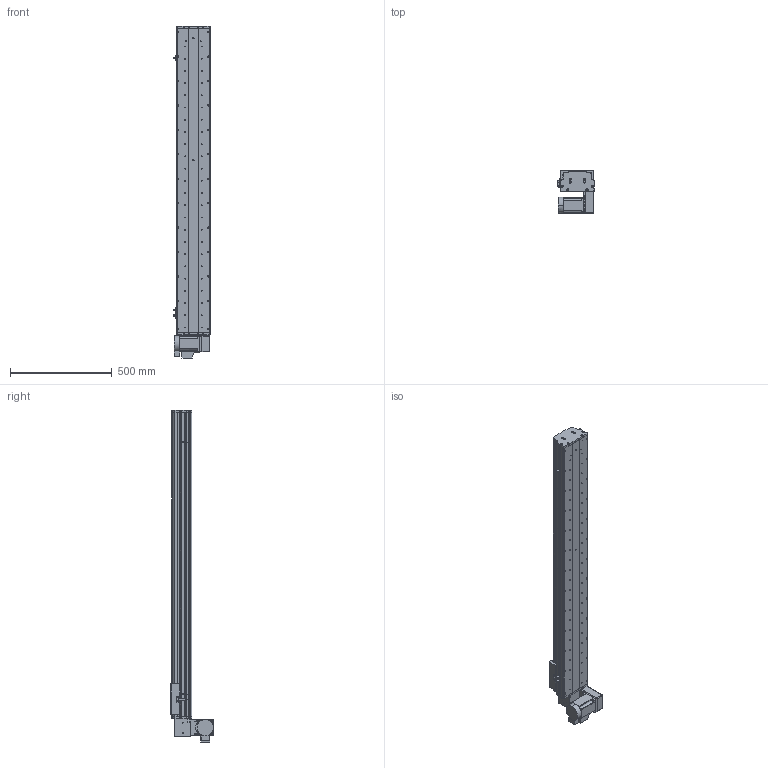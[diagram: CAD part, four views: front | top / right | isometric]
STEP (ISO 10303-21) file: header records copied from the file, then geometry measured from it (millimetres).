
FILE_DESCRIPTION (( 'STEP AP214' ), '1' );
FILE_NAME ('KSD165B-S1250-MRD-CM.STEP', '2017-10-17T00:42:26', ( '微软用户' ), ( '微软中国' ), 'SwSTEP 2.0', 'SolidWorks 2014', '' );
FILE_SCHEMA (( 'AUTOMOTIVE_DESIGN' ));
Length unit declared in the file: millimetre
Products named in the file (17): 130宽模组马达安装板连板上下折丝杆同步带; 130宽模组保护罩上下左右折-同步带; HTPA26S5M250-A-H8 750W萇儂蚚; HTPA26S5M250-A-H8 400W萇儂蚚 ; KSD165模组-同步带防尘盖1-1250行程; KSD165模组同步带底板-1250行程; 拸秶雄ん750W侜督萇儂; 165宽马达安装板同步带右; U倰嫖萇假蚾璃; U倰嫖萇EEㄜSX672; 覜茼え68遵圉猾敕; KSD165模组-同步带-防撞垫2; KSD165模组同步带-防撞垫1; KSD165耀郪-ヶ傷啣1-肮祭湍; KSD165模组-后端板1-同步带; KSD165模组-同步带滑动座-最新版; KSD165B-S1250-MRD-CM
Assembly tree (20 placements, depth 2):
  KSD165B-S1250-MRD-CM
    KSD165模组-同步带滑动座-最新版
    KSD165模组-后端板1-同步带
    KSD165耀郪-ヶ傷啣1-肮祭湍
    KSD165模组同步带-防撞垫1
    KSD165模组-同步带-防撞垫2
    覜茼え68遵圉猾敕
    U倰嫖萇EEㄜSX672  x3
    U倰嫖萇假蚾璃  x3
    165宽马达安装板同步带右
    拸秶雄ん750W侜督萇儂
    KSD165模组同步带底板-1250行程
    KSD165模组-同步带防尘盖1-1250行程
    HTPA26S5M250-A-H8 400W萇儂蚚 
    HTPA26S5M250-A-H8 750W萇儂蚚
    130宽模组保护罩上下左右折-同步带
    130宽模组马达安装板连板上下折丝杆同步带
Bounding box: 178.7 x 210 x 1630.5 mm (x, y, z)
Volume: 9045048.7 mm3; surface area: 2106262.5 mm2
Topology: 21 solids, 21 shells, 2011 faces, 5688 edges, 3716 vertices
Faces by surface type: cylinder 1307, plane 592, cone 112
Entity records: 65812 total; most frequent: CARTESIAN_POINT 13492, DIRECTION 10772, ORIENTED_EDGE 10036, EDGE_CURVE 5018, AXIS2_PLACEMENT_3D 4234, VERTEX_POINT 3308, CIRCLE 2420, LINE 2304
